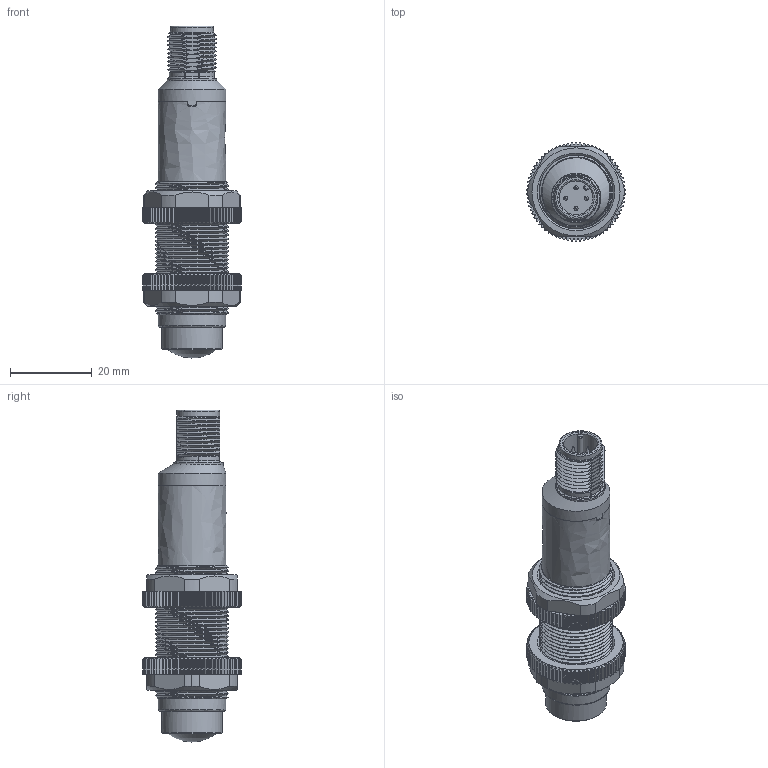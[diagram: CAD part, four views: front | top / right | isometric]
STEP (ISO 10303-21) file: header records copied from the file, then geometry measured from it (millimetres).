
FILE_DESCRIPTION(/* description */ (''),/* implementation_level */ '2;1');
FILE_NAME(/* name */ 'DSD-1020.stp',/* time_stamp */ '2020-07-09T14:33:09+02:00',/* author */ (''),/* organization */ (''),/* preprocessor_version */ 'ST-DEVELOPER v16.7',/* originating_system */ 'SIEMENS PLM Software NX 12.0',/* authorisation */ '');
FILE_SCHEMA (('AUTOMOTIVE_DESIGN { 1 0 10303 214 3 1 1 1 }'));
Products named in the file (1): MBra1F0896016x5s
Bounding box: 23.99 x 24 x 81.05 mm (x, y, z)
Volume: 18111.7 mm3; surface area: 9655.3 mm2
Topology: 3 solids, 4 shells, 1274 faces, 3708 edges, 2450 vertices
Faces by surface type: plane 596, cylinder 374, cone 167, bspline 130, torus 6, sphere 1
Full cylindrical faces by diameter (mm): 8.3 x1, 10.5 x10, 11.9 x1, 12.1 x2, 14.75 x1, 16.6 x1, 16.9 x2
Entity records: 80301 total; most frequent: CARTESIAN_POINT 47345, ORIENTED_EDGE 7268, DIRECTION 5550, EDGE_CURVE 3634, VERTEX_POINT 2417, AXIS2_PLACEMENT_3D 2060, LINE 1430, VECTOR 1430
